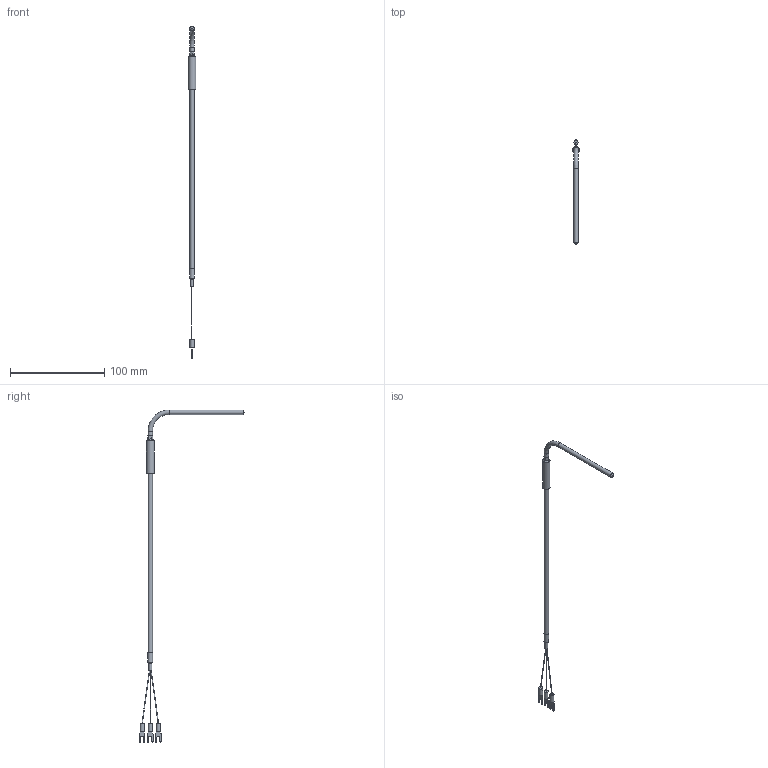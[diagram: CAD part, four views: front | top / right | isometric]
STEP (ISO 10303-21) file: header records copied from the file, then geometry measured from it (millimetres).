
FILE_DESCRIPTION (( 'STEP AP203' ), '1' );
FILE_NAME ('YIR111S-2(0).STEP', '2024-07-25T08:05:36', ( '' ), ( '' ), 'SwSTEP 2.0', 'SolidWorks 2021', '' );
FILE_SCHEMA (( 'CONFIG_CONTROL_DESIGN' ));
Length unit declared in the file: millimetre
Products named in the file (1): YIR111S-2(0)
Bounding box: 8 x 111.48 x 352.12 mm (x, y, z)
Volume: 8242.5 mm3; surface area: 6976.6 mm2
Topology: 1 solids, 1 shells, 91 faces, 222 edges, 145 vertices
Faces by surface type: plane 47, cylinder 31, bspline 8, cone 3, torus 2
Full cylindrical faces by diameter (mm): 0.5 x1, 3.16 x1, 4.5 x3, 4.8 x3, 5 x1, 8 x1
Entity records: 2817 total; most frequent: CARTESIAN_POINT 680, DIRECTION 424, ORIENTED_EDGE 400, EDGE_CURVE 200, AXIS2_PLACEMENT_3D 152, VERTEX_POINT 140, EDGE_LOOP 120, VECTOR 120
